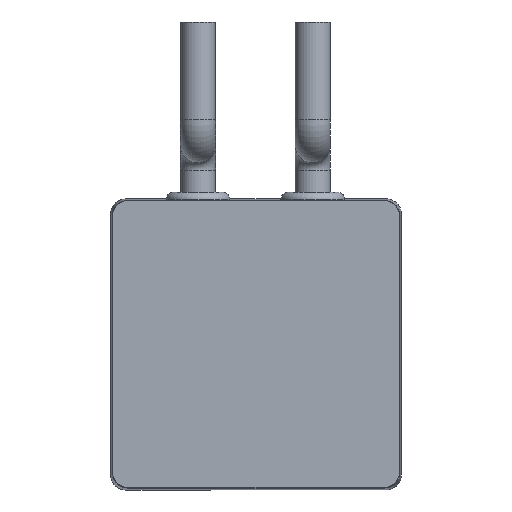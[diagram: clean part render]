
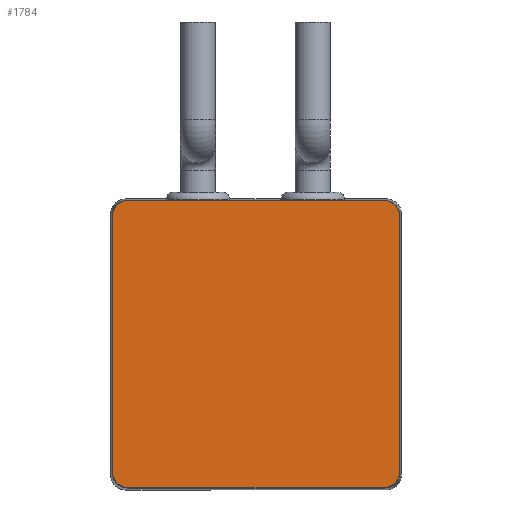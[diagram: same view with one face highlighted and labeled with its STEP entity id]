
A CAD part, top view. The second image highlights one B-rep face of the part: STEP entity #1784.
In plain terms, the highlighted planar face has unit normal (0, 0, 1).
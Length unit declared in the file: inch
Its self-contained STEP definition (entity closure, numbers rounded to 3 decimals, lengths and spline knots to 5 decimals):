
#1308=CARTESIAN_POINT('',(-1.0065,1.125,3.146));
#1309=VERTEX_POINT('',#1308);
#1316=CARTESIAN_POINT('',(1.0065,1.125,3.146));
#1317=VERTEX_POINT('',#1316);
#1318=CARTESIAN_POINT('',(-1.0065,1.125,3.146));
#1319=DIRECTION('',(1.0,0.0,0.0));
#1320=VECTOR('',#1319,2.013);
#1321=LINE('',#1318,#1320);
#1322=EDGE_CURVE('',#1309,#1317,#1321,.T.);
#1509=CARTESIAN_POINT('',(1.125,-1.0065,3.146));
#1510=VERTEX_POINT('',#1509);
#1511=CARTESIAN_POINT('',(1.0065,-1.125,3.146));
#1512=VERTEX_POINT('',#1511);
#1513=CARTESIAN_POINT('',(1.0065,-1.0065,3.146));
#1514=DIRECTION('',(0.0,0.0,-1.));
#1515=DIRECTION('',(0.707,-0.707,0.0));
#1516=AXIS2_PLACEMENT_3D('',#1513,#1514,#1515);
#1517=CIRCLE('',#1516,0.1185);
#1518=EDGE_CURVE('',#1510,#1512,#1517,.T.);
#1609=CARTESIAN_POINT('',(-1.0065,-1.125,3.146));
#1610=VERTEX_POINT('',#1609);
#1611=CARTESIAN_POINT('',(1.0065,-1.125,3.146));
#1612=DIRECTION('',(-1.0,0.0,0.0));
#1613=VECTOR('',#1612,2.013);
#1614=LINE('',#1611,#1613);
#1615=EDGE_CURVE('',#1512,#1610,#1614,.T.);
#1648=CARTESIAN_POINT('',(-1.125,-1.0065,3.146));
#1649=VERTEX_POINT('',#1648);
#1650=CARTESIAN_POINT('',(-1.0065,-1.0065,3.146));
#1651=DIRECTION('',(0.0,0.0,-1.));
#1652=DIRECTION('',(-0.707,-0.707,0.0));
#1653=AXIS2_PLACEMENT_3D('',#1650,#1651,#1652);
#1654=CIRCLE('',#1653,0.1185);
#1655=EDGE_CURVE('',#1610,#1649,#1654,.T.);
#1731=CARTESIAN_POINT('',(-1.125,1.0065,3.146));
#1732=VERTEX_POINT('',#1731);
#1733=CARTESIAN_POINT('',(-1.0065,1.0065,3.146));
#1734=DIRECTION('',(0.0,0.0,-1.));
#1735=DIRECTION('',(-0.707,0.707,0.0));
#1736=AXIS2_PLACEMENT_3D('',#1733,#1734,#1735);
#1737=CIRCLE('',#1736,0.1185);
#1738=EDGE_CURVE('',#1732,#1309,#1737,.T.);
#1751=CARTESIAN_POINT('',(0.0,0.,3.146));
#1752=DIRECTION('',(0.0,0.0,1.0));
#1753=DIRECTION('',(1.0,0.0,0.0));
#1754=AXIS2_PLACEMENT_3D('',#1751,#1752,#1753);
#1755=PLANE('',#1754);
#1756=ORIENTED_EDGE('',*,*,#1518,.F.);
#1757=CARTESIAN_POINT('',(1.125,1.0065,3.146));
#1758=VERTEX_POINT('',#1757);
#1759=CARTESIAN_POINT('',(1.125,1.0065,3.146));
#1760=DIRECTION('',(0.0,-1.0,0.0));
#1761=VECTOR('',#1760,2.013);
#1762=LINE('',#1759,#1761);
#1763=EDGE_CURVE('',#1758,#1510,#1762,.T.);
#1764=ORIENTED_EDGE('',*,*,#1763,.F.);
#1765=CARTESIAN_POINT('',(1.0065,1.0065,3.146));
#1766=DIRECTION('',(0.0,0.0,-1.));
#1767=DIRECTION('',(0.707,0.707,0.0));
#1768=AXIS2_PLACEMENT_3D('',#1765,#1766,#1767);
#1769=CIRCLE('',#1768,0.1185);
#1770=EDGE_CURVE('',#1317,#1758,#1769,.T.);
#1771=ORIENTED_EDGE('',*,*,#1770,.F.);
#1772=ORIENTED_EDGE('',*,*,#1322,.F.);
#1773=ORIENTED_EDGE('',*,*,#1738,.F.);
#1774=CARTESIAN_POINT('',(-1.125,-1.0065,3.146));
#1775=DIRECTION('',(0.0,1.0,0.0));
#1776=VECTOR('',#1775,2.013);
#1777=LINE('',#1774,#1776);
#1778=EDGE_CURVE('',#1649,#1732,#1777,.T.);
#1779=ORIENTED_EDGE('',*,*,#1778,.F.);
#1780=ORIENTED_EDGE('',*,*,#1655,.F.);
#1781=ORIENTED_EDGE('',*,*,#1615,.F.);
#1782=EDGE_LOOP('',(#1756,#1764,#1771,#1772,#1773,#1779,#1780,#1781));
#1783=FACE_OUTER_BOUND('',#1782,.T.);
#1784=ADVANCED_FACE('',(#1783),#1755,.T.);
